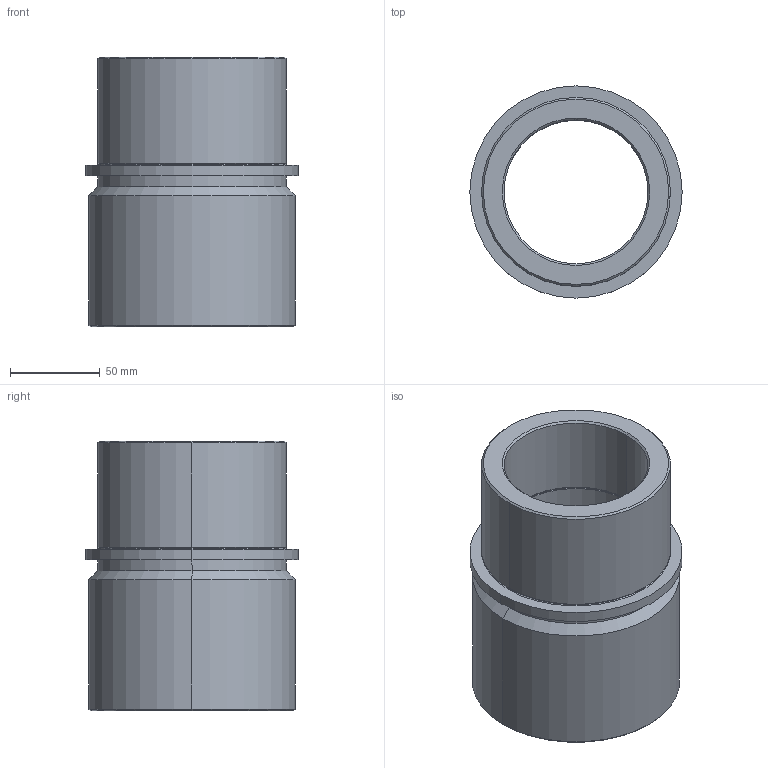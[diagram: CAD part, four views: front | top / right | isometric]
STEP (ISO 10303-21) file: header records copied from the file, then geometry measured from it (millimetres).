
FILE_DESCRIPTION (( 'STEP AP214' ), '1' );
FILE_NAME ('Casquillo SB500-80-150 b.STEP', '2019-01-10T13:41:08', ( '' ), ( '' ), 'SwSTEP 2.0', 'SolidWorks 2018', '' );
FILE_SCHEMA (( 'AUTOMOTIVE_DESIGN' ));
Length unit declared in the file: millimetre
Products named in the file (1): Casquillo SB500-80-150 b
Bounding box: 118 x 118 x 150 mm (x, y, z)
Volume: 688140.4 mm3; surface area: 103834.7 mm2
Topology: 1 solids, 1 shells, 40 faces, 80 edges, 44 vertices
Faces by surface type: cylinder 14, torus 12, cone 10, plane 4
Entity records: 1074 total; most frequent: DIRECTION 218, CARTESIAN_POINT 165, ORIENTED_EDGE 160, AXIS2_PLACEMENT_3D 97, EDGE_CURVE 80, CIRCLE 56, EDGE_LOOP 44, VERTEX_POINT 44
